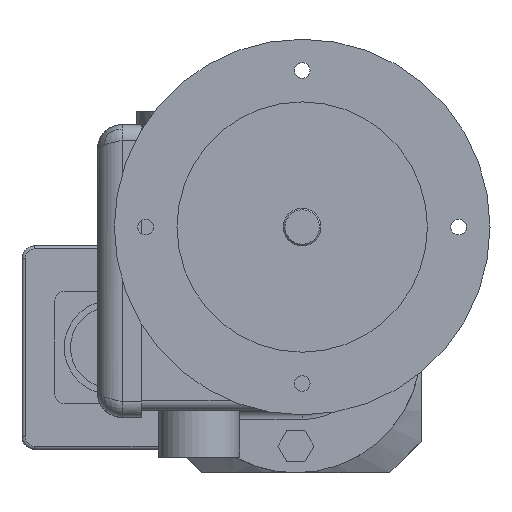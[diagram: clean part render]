
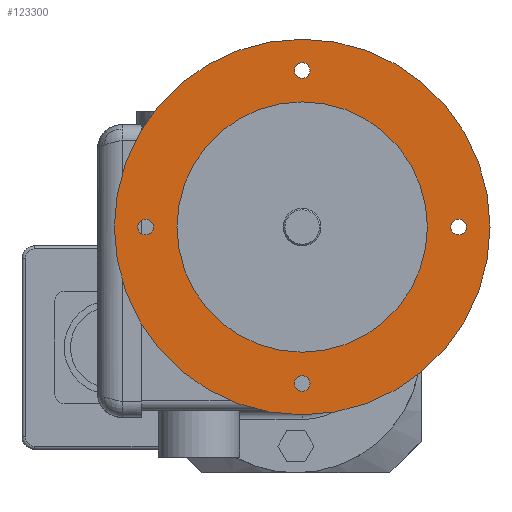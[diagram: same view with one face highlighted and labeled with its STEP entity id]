
A CAD part, left-side view. The second image highlights one B-rep face of the part: STEP entity #123300.
In plain terms, the highlighted planar face has unit normal (-1, 0, 0) as drawn and (0, 0, 1) by its records, which use the part's own axes.
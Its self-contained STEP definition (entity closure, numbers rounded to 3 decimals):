
#122220=CARTESIAN_POINT('',(-34.958,-296.478,220.));
#122230=VERTEX_POINT('',#122220);
#122310=CARTESIAN_POINT('',(-154.958,-296.478,220.));
#122320=VERTEX_POINT('',#122310);
#122350=CARTESIAN_POINT('',(-94.958,-296.478,220.));
#122360=DIRECTION('',(0.,0.,1.));
#122370=DIRECTION('',(1.,0.,0.));
#122380=AXIS2_PLACEMENT_3D('',#122350,#122360,#122370);
#122390=CIRCLE('',#122380,60.);
#122400=EDGE_CURVE('',#122320,#122230,#122390,.T.);
#122450=CARTESIAN_POINT('',(-91.592,-279.62,220.));
#122460=DIRECTION('',(0.,0.,1.));
#122470=DIRECTION('',(1.,0.,0.));
#122480=AXIS2_PLACEMENT_3D('',#122450,#122460,#122470);
#122490=PLANE('',#122480);
#122500=EDGE_CURVE('',#122230,#122320,#122390,.T.);
#122510=ORIENTED_EDGE('',*,*,#122500,.T.);
#122520=ORIENTED_EDGE('',*,*,#122400,.T.);
#122530=EDGE_LOOP('',(#122520,#122510));
#122540=FACE_OUTER_BOUND('',#122530,.T.);
#122550=CARTESIAN_POINT('',(-94.958,-296.478,220.));
#122560=DIRECTION('',(0.,0.,1.));
#122570=DIRECTION('',(1.,0.,0.));
#122580=AXIS2_PLACEMENT_3D('',#122550,#122560,#122570);
#122590=CIRCLE('',#122580,40.);
#122600=CARTESIAN_POINT('',(-54.958,-296.478,220.));
#122610=VERTEX_POINT('',#122600);
#122620=CARTESIAN_POINT('',(-134.958,-296.478,220.));
#122630=VERTEX_POINT('',#122620);
#122640=EDGE_CURVE('',#122610,#122630,#122590,.T.);
#122650=ORIENTED_EDGE('',*,*,#122640,.F.);
#122660=EDGE_CURVE('',#122630,#122610,#122590,.T.);
#122670=ORIENTED_EDGE('',*,*,#122660,.F.);
#122680=EDGE_LOOP('',(#122670,#122650));
#122690=FACE_BOUND('',#122680,.T.);
#122700=CARTESIAN_POINT('',(-44.958,-296.478,220.));
#122710=DIRECTION('',(0.,0.,1.));
#122720=DIRECTION('',(-1.,0.,0.));
#122730=AXIS2_PLACEMENT_3D('',#122700,#122710,#122720);
#122740=CIRCLE('',#122730,2.5);
#122750=CARTESIAN_POINT('',(-47.458,-296.478,220.));
#122760=VERTEX_POINT('',#122750);
#122770=CARTESIAN_POINT('',(-42.458,-296.478,220.));
#122780=VERTEX_POINT('',#122770);
#122790=EDGE_CURVE('',#122760,#122780,#122740,.T.);
#122800=ORIENTED_EDGE('',*,*,#122790,.F.);
#122810=EDGE_CURVE('',#122780,#122760,#122740,.T.);
#122820=ORIENTED_EDGE('',*,*,#122810,.F.);
#122830=EDGE_LOOP('',(#122820,#122800));
#122840=FACE_BOUND('',#122830,.T.);
#122850=CARTESIAN_POINT('',(-94.958,-346.478,220.));
#122860=DIRECTION('',(0.,0.,1.));
#122870=DIRECTION('',(0.,1.,0.));
#122880=AXIS2_PLACEMENT_3D('',#122850,#122860,#122870);
#122890=CIRCLE('',#122880,2.5);
#122900=CARTESIAN_POINT('',(-94.958,-343.978,220.));
#122910=VERTEX_POINT('',#122900);
#122920=CARTESIAN_POINT('',(-94.958,-348.978,220.));
#122930=VERTEX_POINT('',#122920);
#122940=EDGE_CURVE('',#122910,#122930,#122890,.T.);
#122950=ORIENTED_EDGE('',*,*,#122940,.F.);
#122960=EDGE_CURVE('',#122930,#122910,#122890,.T.);
#122970=ORIENTED_EDGE('',*,*,#122960,.F.);
#122980=EDGE_LOOP('',(#122970,#122950));
#122990=FACE_BOUND('',#122980,.T.);
#123000=CARTESIAN_POINT('',(-144.958,-296.478,220.));
#123010=DIRECTION('',(0.,0.,1.));
#123020=DIRECTION('',(1.,0.,0.));
#123030=AXIS2_PLACEMENT_3D('',#123000,#123010,#123020);
#123040=CIRCLE('',#123030,2.5);
#123050=CARTESIAN_POINT('',(-142.458,-296.478,220.));
#123060=VERTEX_POINT('',#123050);
#123070=CARTESIAN_POINT('',(-147.458,-296.478,220.));
#123080=VERTEX_POINT('',#123070);
#123090=EDGE_CURVE('',#123060,#123080,#123040,.T.);
#123100=ORIENTED_EDGE('',*,*,#123090,.F.);
#123110=EDGE_CURVE('',#123080,#123060,#123040,.T.);
#123120=ORIENTED_EDGE('',*,*,#123110,.F.);
#123130=EDGE_LOOP('',(#123120,#123100));
#123140=FACE_BOUND('',#123130,.T.);
#123150=CARTESIAN_POINT('',(-94.958,-246.478,220.));
#123160=DIRECTION('',(0.,0.,1.));
#123170=DIRECTION('',(0.,-1.,0.));
#123180=AXIS2_PLACEMENT_3D('',#123150,#123160,#123170);
#123190=CIRCLE('',#123180,2.5);
#123200=CARTESIAN_POINT('',(-94.958,-248.978,220.));
#123210=VERTEX_POINT('',#123200);
#123220=CARTESIAN_POINT('',(-94.958,-243.978,220.));
#123230=VERTEX_POINT('',#123220);
#123240=EDGE_CURVE('',#123210,#123230,#123190,.T.);
#123250=ORIENTED_EDGE('',*,*,#123240,.F.);
#123260=EDGE_CURVE('',#123230,#123210,#123190,.T.);
#123270=ORIENTED_EDGE('',*,*,#123260,.F.);
#123280=EDGE_LOOP('',(#123270,#123250));
#123290=FACE_BOUND('',#123280,.T.);
#123300=ADVANCED_FACE('',(#122540,#122690,#122840,#122990,#123140,
#123290),#122490,.T.);
